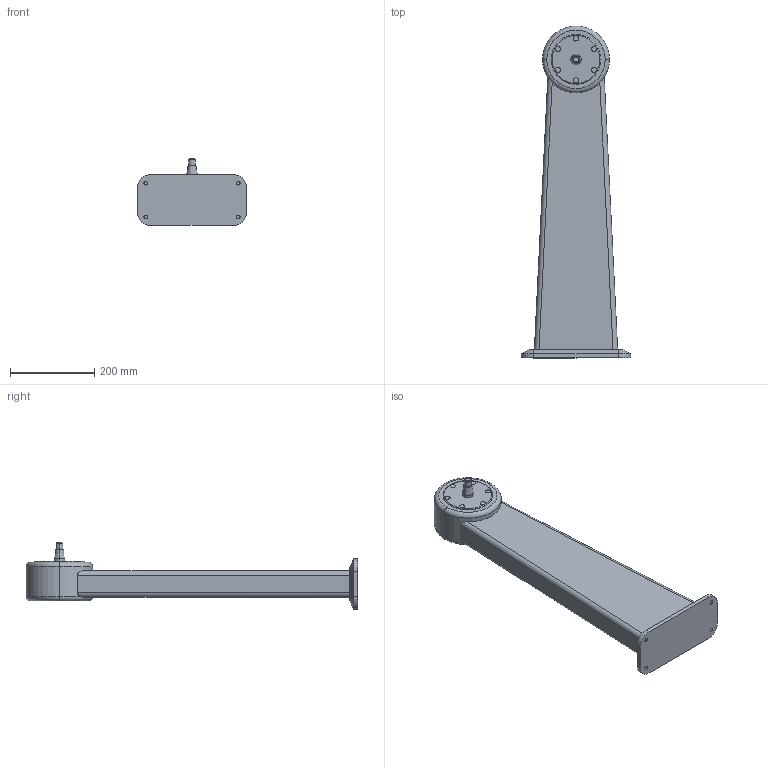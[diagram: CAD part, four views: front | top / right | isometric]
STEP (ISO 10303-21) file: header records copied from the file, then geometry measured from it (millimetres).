
FILE_DESCRIPTION (( 'STEP AP214' ), '1' );
FILE_NAME ('WP700_H710_+00.STEP', '2014-08-14T09:51:29', ( '' ), ( '' ), 'SwSTEP 2.0', 'SolidWorks 2014', '' );
FILE_SCHEMA (( 'AUTOMOTIVE_DESIGN' ));
Length unit declared in the file: millimetre
Products named in the file (1): WP700_H710_+00
Bounding box: 260 x 789.5 x 158.3 mm (x, y, z)
Volume: 8822419.1 mm3; surface area: 409933.4 mm2
Topology: 1 solids, 1 shells, 79 faces, 171 edges, 108 vertices
Faces by surface type: cylinder 36, plane 29, cone 8, torus 6
Entity records: 2290 total; most frequent: CARTESIAN_POINT 471, DIRECTION 408, ORIENTED_EDGE 342, EDGE_CURVE 171, AXIS2_PLACEMENT_3D 167, VERTEX_POINT 108, EDGE_LOOP 93, CIRCLE 87
